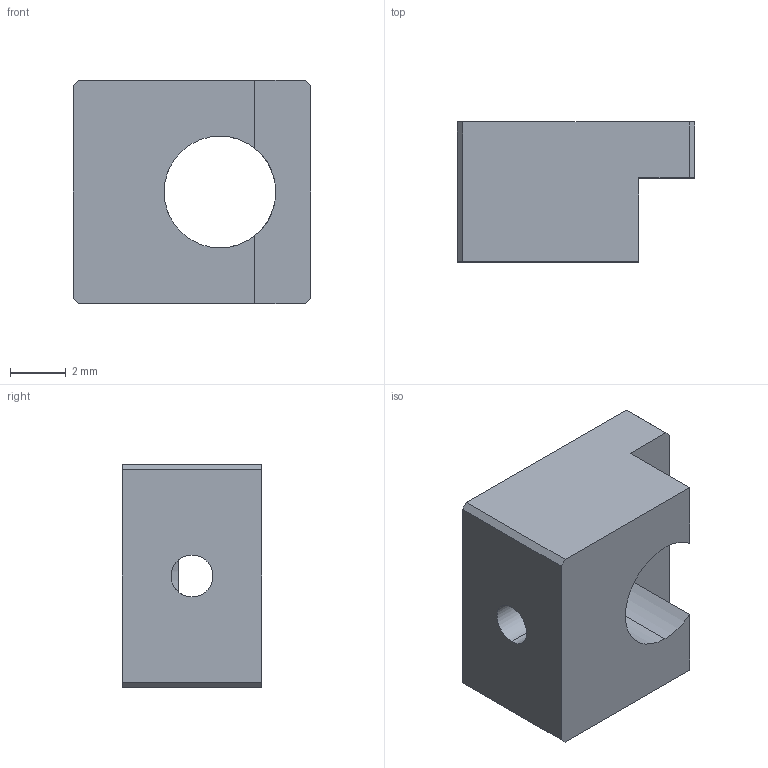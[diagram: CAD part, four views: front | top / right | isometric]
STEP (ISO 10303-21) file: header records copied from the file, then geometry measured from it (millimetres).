
FILE_DESCRIPTION (( 'STEP AP214' ), '1' );
FILE_NAME ('NTS307-B-DOG.STEP', '2025-01-09T06:17:39', ( '' ), ( '' ), 'SwSTEP 2.0', 'SolidWorks 2022', '' );
FILE_SCHEMA (( 'AUTOMOTIVE_DESIGN' ));
Length unit declared in the file: millimetre
Products named in the file (1): NTS307-B-DOG
Bounding box: 8.5 x 5 x 8 mm (x, y, z)
Volume: 228 mm3; surface area: 316.9 mm2
Topology: 1 solids, 1 shells, 17 faces, 48 edges, 32 vertices
Faces by surface type: plane 13, cylinder 4
Entity records: 622 total; most frequent: CARTESIAN_POINT 132, ORIENTED_EDGE 96, DIRECTION 90, EDGE_CURVE 48, VECTOR 38, LINE 38, VERTEX_POINT 32, AXIS2_PLACEMENT_3D 26
